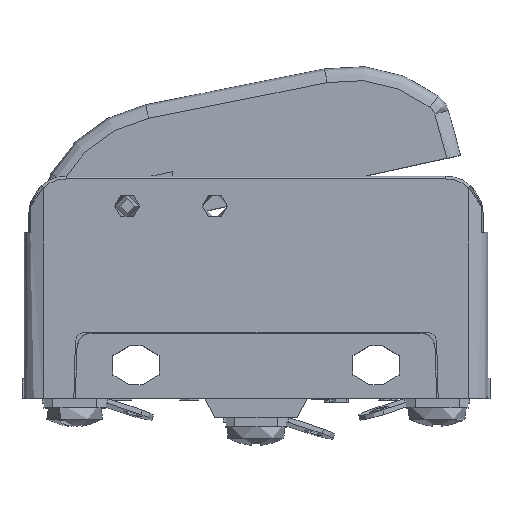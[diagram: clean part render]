
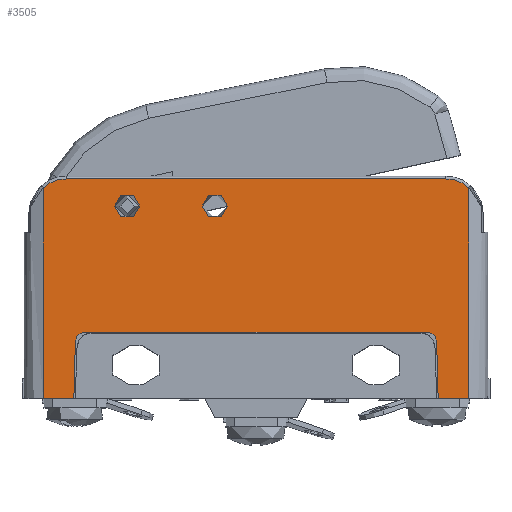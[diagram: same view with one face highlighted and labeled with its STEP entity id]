
A CAD part, top view. The second image highlights one B-rep face of the part: STEP entity #3505.
In plain terms, the highlighted planar face has unit normal (0, 0, 1).
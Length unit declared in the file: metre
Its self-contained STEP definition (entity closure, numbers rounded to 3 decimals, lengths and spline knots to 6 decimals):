
#3280=CARTESIAN_POINT('',(-0.034493,0.004226,0.058));
#3281=DIRECTION('',(0.,-1.,0.));
#3282=VECTOR('',#3281,1.);
#3283=LINE('',#3280,#3282);
#3284=CARTESIAN_POINT('',(-0.034493,0.008971,0.058));
#3285=VERTEX_POINT('',#3284);
#3286=CARTESIAN_POINT('',(-0.034493,-0.013574,0.058));
#3287=VERTEX_POINT('',#3286);
#3288=EDGE_CURVE('',#3285,#3287,#3283,.T.);
#3349=CARTESIAN_POINT('',(-0.025493,0.007026,0.058));
#3350=DIRECTION('',(0.,0.,1.));
#3351=DIRECTION('',(1.,0.,0.));
#3352=AXIS2_PLACEMENT_3D('',#3349,#3350,#3351);
#3353=CIRCLE('',#3352,0.00135);
#3354=CARTESIAN_POINT('',(-0.026843,0.007026,0.058));
#3355=VERTEX_POINT('',#3354);
#3356=EDGE_CURVE('',#3355,#3355,#3353,.T.);
#3385=CARTESIAN_POINT('',(-0.016093,0.007026,0.058));
#3386=DIRECTION('',(0.,0.,1.));
#3387=DIRECTION('',(1.,0.,0.));
#3388=AXIS2_PLACEMENT_3D('',#3385,#3386,#3387);
#3389=CIRCLE('',#3388,0.00135);
#3390=CARTESIAN_POINT('',(-0.017443,0.007026,0.058));
#3391=VERTEX_POINT('',#3390);
#3392=EDGE_CURVE('',#3391,#3391,#3389,.T.);
#3405=CARTESIAN_POINT('',(-0.034493,0.004226,0.058));
#3406=DIRECTION('',(0.,0.,-1.));
#3407=DIRECTION('',(-1.,0.,0.));
#3408=AXIS2_PLACEMENT_3D('',#3405,#3406,#3407);
#3409=PLANE('',#3408);
#3410=ORIENTED_EDGE('',*,*,#3392,.F.);
#3411=EDGE_LOOP('',(#3410));
#3412=FACE_BOUND('',#3411,.T.);
#3413=ORIENTED_EDGE('',*,*,#3356,.F.);
#3414=EDGE_LOOP('',(#3413));
#3415=FACE_BOUND('',#3414,.T.);
#3416=CARTESIAN_POINT('',(-0.034493,0.009926,0.058));
#3417=DIRECTION('',(1.,0.,0.));
#3418=VECTOR('',#3417,1.);
#3419=LINE('',#3416,#3418);
#3420=CARTESIAN_POINT('',(-0.032013,0.009926,0.058));
#3421=VERTEX_POINT('',#3420);
#3422=CARTESIAN_POINT('',(0.008626,0.009926,0.058));
#3423=VERTEX_POINT('',#3422);
#3424=EDGE_CURVE('',#3421,#3423,#3419,.T.);
#3425=ORIENTED_EDGE('',*,*,#3424,.F.);
#3426=CARTESIAN_POINT('',(-0.032013,0.006226,0.058));
#3427=DIRECTION('',(0.,0.,-1.));
#3428=DIRECTION('',(-1.,0.,0.));
#3429=AXIS2_PLACEMENT_3D('',#3426,#3427,#3428);
#3430=CIRCLE('',#3429,0.0037);
#3431=EDGE_CURVE('',#3285,#3421,#3430,.T.);
#3432=ORIENTED_EDGE('',*,*,#3431,.F.);
#3433=ORIENTED_EDGE('',*,*,#3288,.T.);
#3434=CARTESIAN_POINT('',(-0.034493,-0.013574,0.058));
#3435=DIRECTION('',(1.,0.,0.));
#3436=VECTOR('',#3435,1.);
#3437=LINE('',#3434,#3436);
#3438=CARTESIAN_POINT('',(-0.031193,-0.013574,0.058));
#3439=VERTEX_POINT('',#3438);
#3440=EDGE_CURVE('',#3287,#3439,#3437,.T.);
#3441=ORIENTED_EDGE('',*,*,#3440,.T.);
#3442=CARTESIAN_POINT('',(-0.031193,-0.013574,0.058));
#3443=DIRECTION('',(-0.026,-1.,0.));
#3444=VECTOR('',#3443,1.);
#3445=LINE('',#3442,#3444);
#3446=CARTESIAN_POINT('',(-0.031033,-0.007448,0.058));
#3447=VERTEX_POINT('',#3446);
#3448=EDGE_CURVE('',#3447,#3439,#3445,.T.);
#3449=ORIENTED_EDGE('',*,*,#3448,.F.);
#3450=CARTESIAN_POINT('',(-0.030033,-0.007474,0.058));
#3451=DIRECTION('',(0.,0.,1.));
#3452=DIRECTION('',(1.,0.,0.));
#3453=AXIS2_PLACEMENT_3D('',#3450,#3451,#3452);
#3454=CIRCLE('',#3453,0.001);
#3455=CARTESIAN_POINT('',(-0.030033,-0.006474,0.058));
#3456=VERTEX_POINT('',#3455);
#3457=EDGE_CURVE('',#3456,#3447,#3454,.T.);
#3458=ORIENTED_EDGE('',*,*,#3457,.F.);
#3459=CARTESIAN_POINT('',(-0.030033,-0.006474,0.058));
#3460=DIRECTION('',(-1.,0.,0.));
#3461=VECTOR('',#3460,1.);
#3462=LINE('',#3459,#3461);
#3463=CARTESIAN_POINT('',(0.006647,-0.006474,0.058));
#3464=VERTEX_POINT('',#3463);
#3465=EDGE_CURVE('',#3464,#3456,#3462,.T.);
#3466=ORIENTED_EDGE('',*,*,#3465,.F.);
#3467=CARTESIAN_POINT('',(0.006647,-0.007474,0.058));
#3468=DIRECTION('',(0.,0.,1.));
#3469=DIRECTION('',(1.,0.,0.));
#3470=AXIS2_PLACEMENT_3D('',#3467,#3468,#3469);
#3471=CIRCLE('',#3470,0.001);
#3472=CARTESIAN_POINT('',(0.007646,-0.007448,0.058));
#3473=VERTEX_POINT('',#3472);
#3474=EDGE_CURVE('',#3473,#3464,#3471,.T.);
#3475=ORIENTED_EDGE('',*,*,#3474,.F.);
#3476=CARTESIAN_POINT('',(0.007807,-0.013574,0.058));
#3477=DIRECTION('',(-0.026,1.,0.));
#3478=VECTOR('',#3477,1.);
#3479=LINE('',#3476,#3478);
#3480=CARTESIAN_POINT('',(0.007807,-0.013574,0.058));
#3481=VERTEX_POINT('',#3480);
#3482=EDGE_CURVE('',#3481,#3473,#3479,.T.);
#3483=ORIENTED_EDGE('',*,*,#3482,.F.);
#3484=CARTESIAN_POINT('',(0.011107,-0.013574,0.058));
#3485=VERTEX_POINT('',#3484);
#3486=EDGE_CURVE('',#3481,#3485,#3437,.T.);
#3487=ORIENTED_EDGE('',*,*,#3486,.T.);
#3488=CARTESIAN_POINT('',(0.011107,0.004226,0.058));
#3489=DIRECTION('',(0.,-1.,0.));
#3490=VECTOR('',#3489,1.);
#3491=LINE('',#3488,#3490);
#3492=CARTESIAN_POINT('',(0.011107,0.008971,0.058));
#3493=VERTEX_POINT('',#3492);
#3494=EDGE_CURVE('',#3493,#3485,#3491,.T.);
#3495=ORIENTED_EDGE('',*,*,#3494,.F.);
#3496=CARTESIAN_POINT('',(0.008626,0.006226,0.058));
#3497=DIRECTION('',(0.,0.,-1.));
#3498=DIRECTION('',(-1.,0.,0.));
#3499=AXIS2_PLACEMENT_3D('',#3496,#3497,#3498);
#3500=CIRCLE('',#3499,0.0037);
#3501=EDGE_CURVE('',#3423,#3493,#3500,.T.);
#3502=ORIENTED_EDGE('',*,*,#3501,.F.);
#3503=EDGE_LOOP('',(#3425,#3432,#3433,#3441,#3449,#3458,#3466,#3475,#3483,#3487,#3495,#3502));
#3504=FACE_BOUND('',#3503,.T.);
#3505=ADVANCED_FACE('',(#3412,#3415,#3504),#3409,.F.);
